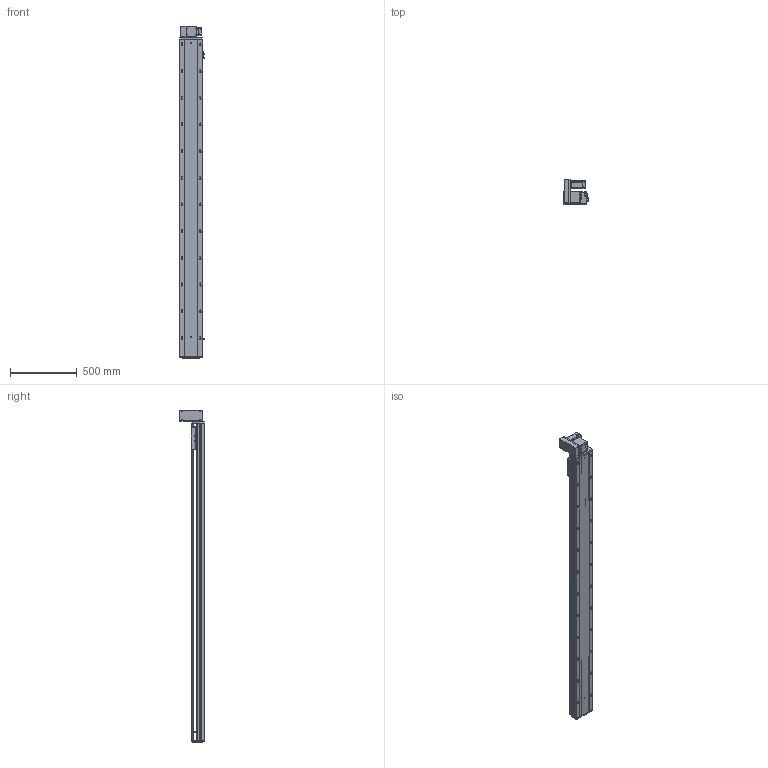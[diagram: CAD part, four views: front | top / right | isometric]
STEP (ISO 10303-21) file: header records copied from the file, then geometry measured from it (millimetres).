
FILE_DESCRIPTION (( 'STEP AP203' ), '1' );
FILE_NAME ('RY170-T-300-UL-P400W.SLDASM_2100.step', '2021-03-02T02:14:31', ( '盈信电脑' ), ( '东莞市道滘镇水果街19号' ), 'SwSTEP 2.0', 'SolidWorks 2012', '' );
FILE_SCHEMA (( 'CONFIG_CONTROL_DESIGN' ));
Products named in the file (18): 15; RY170-T-300-UL-P400W.SLDASM_2100; RY170同步轮电机安装板(400W); RY170-T蹟翐M4; RY170肮祭謫萇儂欶; RY120-T主同步轮轴承压盖; 滅袉蝶18-10; RY170-T肮祭湍揤踡輸2; RY170翋肮祭謫釱; RY170-T肮祭湍揤踡輸1; RY170-T肮祭謫裔啣; RY170外置感应片(200共用）; RY170綴裔啣; 覜茼ん672; RY170肮祭謫ヶ裔啣; RY170-T-300肮祭謫倰第裔啣-DL_2100; RY170肮祭湍臏賑輸; RY170-T-300肮祭謫倰第菁釱-DL_2100
Assembly tree (20 placements, depth 2):
  RY170-T-300-UL-P400W.SLDASM_2100
    RY170-T-300肮祭謫倰第菁釱-DL_2100
    RY170肮祭湍臏賑輸
    RY170-T-300肮祭謫倰第裔啣-DL_2100
    RY170綴裔啣
    覜茼ん672  x3
    RY170外置感应片(200共用）
    RY170肮祭謫ヶ裔啣
    RY170翋肮祭謫釱
    RY170-T肮祭湍揤踡輸1
    RY170-T肮祭湍揤踡輸2
    RY170-T肮祭謫裔啣
    滅袉蝶18-10  x2
    RY120-T主同步轮轴承压盖
    RY170肮祭謫萇儂欶
    RY170同步轮电机安装板(400W)
    RY170-T蹟翐M4
    15
Bounding box: 183.7 x 184 x 2488 mm (x, y, z)
Volume: 11466374.6 mm3; surface area: 3945996.2 mm2
Topology: 20 solids, 20 shells, 2849 faces, 8026 edges, 5099 vertices
Faces by surface type: cylinder 1352, plane 1155, cone 312, bspline 30
Entity records: 92152 total; most frequent: CARTESIAN_POINT 21411, ORIENTED_EDGE 14544, DIRECTION 14164, EDGE_CURVE 7272, AXIS2_PLACEMENT_3D 5034, VERTEX_POINT 4767, LINE 4096, VECTOR 4096
